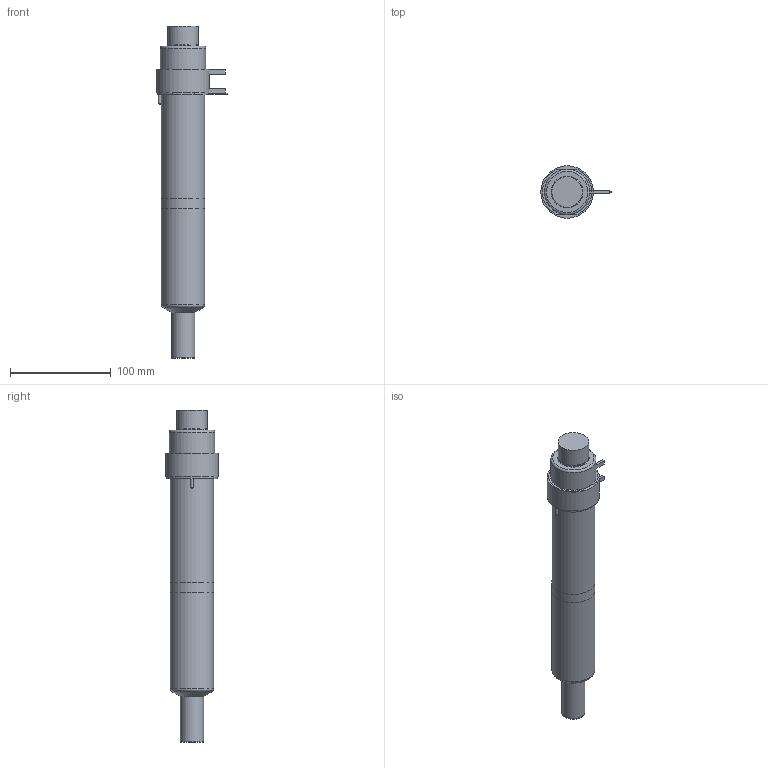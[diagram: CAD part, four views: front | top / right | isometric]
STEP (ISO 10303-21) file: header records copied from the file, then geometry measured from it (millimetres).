
FILE_DESCRIPTION(/* description */ (''),/* implementation_level */ '2;1');
FILE_NAME(/* name */ 'SXYCN27225N3F_250C_a',/* time_stamp */ '2016-03-03T16:02:24+13:00',/* author */ (''),/* organization */ (''),/* preprocessor_version */ 'ST-DEVELOPER v9',/* originating_system */ 'UGS - NX 4.0',/* authorisation */ '');
FILE_SCHEMA (('CONFIG_CONTROL_DESIGN'));
Length unit declared in the file: millimetre
Products named in the file (1): matt9EABfnbl
Bounding box: 69.6 x 52 x 329.07 mm (x, y, z)
Volume: 773122.8 mm3; surface area: 92522.1 mm2
Topology: 7 solids, 7 shells, 91 faces, 176 edges, 113 vertices
Faces by surface type: plane 43, cylinder 29, torus 9, cone 8, bspline 1, sphere 1
Full cylindrical faces by diameter (mm): 1 x3, 2.5 x2, 3 x1, 12 x2, 22.61 x1, 22.995 x2, 27.5 x1, 30 x1, 30.4 x1, 38.1 x2, 43 x2, 45 x1, 50 x1, 52 x1
Entity records: 2357 total; most frequent: CARTESIAN_POINT 540, DIRECTION 380, ORIENTED_EDGE 276, AXIS2_PLACEMENT_3D 165, EDGE_LOOP 138, EDGE_CURVE 138, VERTEX_POINT 109, ADVANCED_FACE 91
